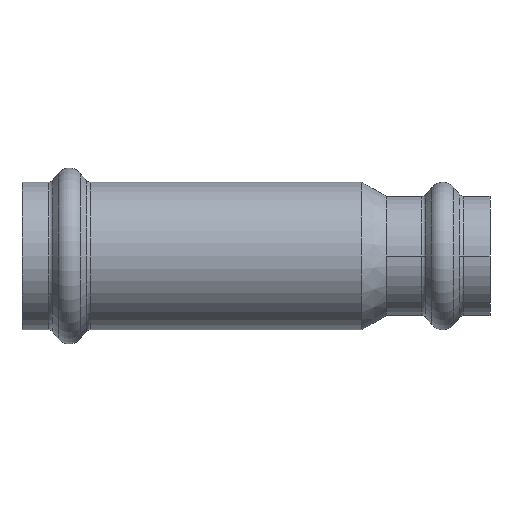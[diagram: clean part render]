
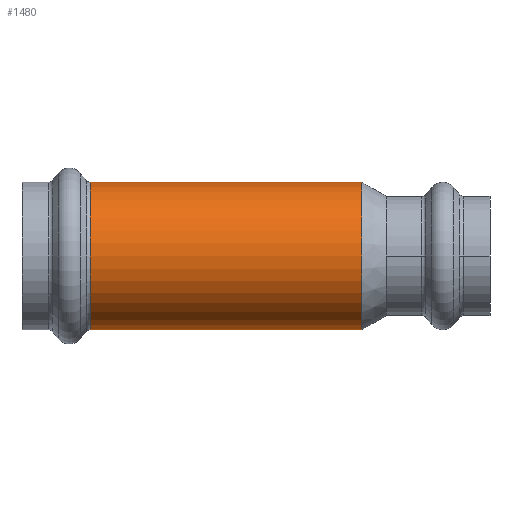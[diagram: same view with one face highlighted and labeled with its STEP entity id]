
A CAD part, front view. The second image highlights one B-rep face of the part: STEP entity #1480.
In plain terms, the highlighted cylindrical face has radius 15.6 mm (diameter 31.2 mm), a partial arc.
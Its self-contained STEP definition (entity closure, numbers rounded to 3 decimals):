
#29 = CIRCLE ( 'NONE', #929, 15.6 ) ;
#170 = LINE ( 'NONE', #4618, #4418 ) ;
#419 = EDGE_CURVE ( 'NONE', #2035, #4301, #170, .T. ) ;
#651 = ORIENTED_EDGE ( 'NONE', *, *, #3209, .T. ) ;
#697 = DIRECTION ( 'NONE',  ( 0., 0., -1. ) ) ;
#763 = CARTESIAN_POINT ( 'NONE',  ( 23.376, 0., 0. ) ) ;
#787 = DIRECTION ( 'NONE',  ( 1., 0., 0. ) ) ;
#851 = LINE ( 'NONE', #3731, #2913 ) ;
#859 = DIRECTION ( 'NONE',  ( 0., 0., 1. ) ) ;
#895 = AXIS2_PLACEMENT_3D ( 'NONE', #763, #787, #859 ) ;
#929 = AXIS2_PLACEMENT_3D ( 'NONE', #2461, #1410, #697 ) ;
#1148 = FACE_OUTER_BOUND ( 'NONE', #4671, .T. ) ;
#1254 = EDGE_CURVE ( 'NONE', #3279, #4301, #29, .T. ) ;
#1271 = DIRECTION ( 'NONE',  ( -1., 0., 0. ) ) ;
#1410 = DIRECTION ( 'NONE',  ( 1., 0., 0. ) ) ;
#1480 = ADVANCED_FACE ( 'NONE', ( #1148 ), #4246, .T. ) ;
#1556 = CIRCLE ( 'NONE', #895, 15.6 ) ;
#1737 = ORIENTED_EDGE ( 'NONE', *, *, #1254, .T. ) ;
#2035 = VERTEX_POINT ( 'NONE', #2193 ) ;
#2193 = CARTESIAN_POINT ( 'NONE',  ( 23.376, 0., -15.6 ) ) ;
#2195 = CARTESIAN_POINT ( 'NONE',  ( -34.106, 0., 15.6 ) ) ;
#2268 = EDGE_CURVE ( 'NONE', #3497, #2035, #1556, .T. ) ;
#2286 = CARTESIAN_POINT ( 'NONE',  ( -34.106, 0., -15.6 ) ) ;
#2461 = CARTESIAN_POINT ( 'NONE',  ( -34.106, 0., 0. ) ) ;
#2573 = CARTESIAN_POINT ( 'NONE',  ( 23.376, 0., 15.6 ) ) ;
#2615 = DIRECTION ( 'NONE',  ( -1., 0., 0. ) ) ;
#2624 = CARTESIAN_POINT ( 'NONE',  ( -58.611, 0., 0. ) ) ;
#2639 = DIRECTION ( 'NONE',  ( 0., 0., 1. ) ) ;
#2913 = VECTOR ( 'NONE', #1271, 1000. ) ;
#3130 = ORIENTED_EDGE ( 'NONE', *, *, #419, .F. ) ;
#3209 = EDGE_CURVE ( 'NONE', #3497, #3279, #851, .T. ) ;
#3279 = VERTEX_POINT ( 'NONE', #2195 ) ;
#3302 = DIRECTION ( 'NONE',  ( -1., 0., 0. ) ) ;
#3497 = VERTEX_POINT ( 'NONE', #2573 ) ;
#3731 = CARTESIAN_POINT ( 'NONE',  ( -58.611, 0., 15.6 ) ) ;
#4246 = CYLINDRICAL_SURFACE ( 'NONE', #5225, 15.6 ) ;
#4301 = VERTEX_POINT ( 'NONE', #2286 ) ;
#4418 = VECTOR ( 'NONE', #3302, 1000. ) ;
#4618 = CARTESIAN_POINT ( 'NONE',  ( -58.611, 0., -15.6 ) ) ;
#4671 = EDGE_LOOP ( 'NONE', ( #3130, #5182, #651, #1737 ) ) ;
#5182 = ORIENTED_EDGE ( 'NONE', *, *, #2268, .F. ) ;
#5225 = AXIS2_PLACEMENT_3D ( 'NONE', #2624, #2615, #2639 ) ;
